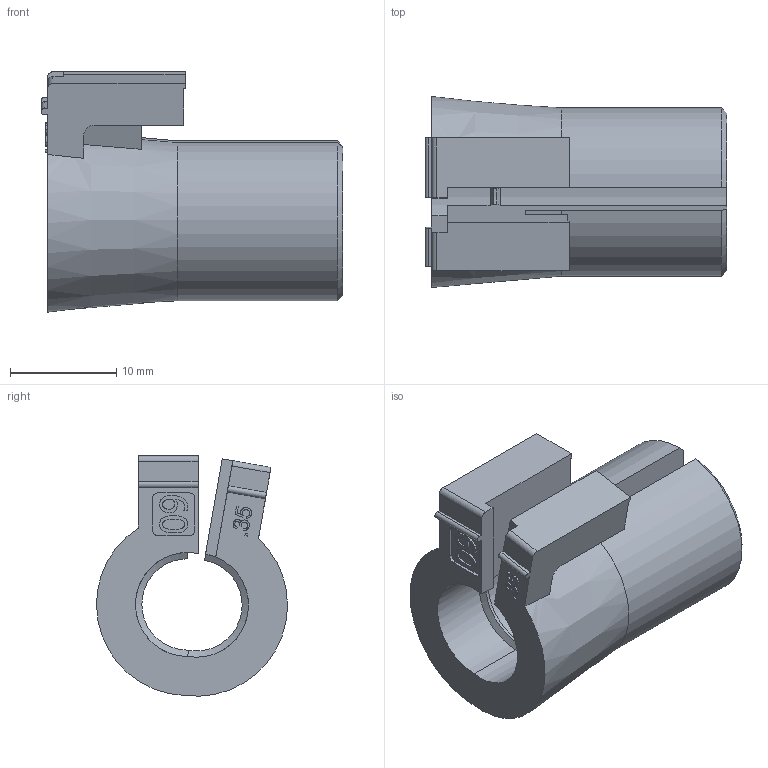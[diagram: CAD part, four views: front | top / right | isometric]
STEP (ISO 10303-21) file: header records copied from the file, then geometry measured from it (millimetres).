
FILE_DESCRIPTION(/* description */ (''),/* implementation_level */ '2;1');
FILE_NAME(/* name */ 'C:\SapWorkDir\Inventor\MP1\ConvertTempPath\87_12_121352_00_A_220530_KDT-X 09.stp',/* time_stamp */ '2022-05-31T09:43:35+02:00',/* author */ ('BAUER'),/* organization */ (''),/* preprocessor_version */ 'ST-DEVELOPER v16.13',/* originating_system */ 'Autodesk Inventor 2018',/* authorisation */ '');
FILE_SCHEMA (('AUTOMOTIVE_DESIGN { 1 0 10303 214 3 1 1 }'));
Length unit declared in the file: millimetre
Products named in the file (1): 121352
Bounding box: 28.4 x 17.99 x 22.64 mm (x, y, z)
Volume: 3731.7 mm3; surface area: 3160.9 mm2
Topology: 1 solids, 1 shells, 145 faces, 399 edges, 264 vertices
Faces by surface type: plane 63, bspline 54, cylinder 20, cone 8
Entity records: 4959 total; most frequent: CARTESIAN_POINT 1513, ORIENTED_EDGE 798, DIRECTION 521, EDGE_CURVE 399, VERTEX_POINT 264, LINE 229, VECTOR 229, EDGE_LOOP 153
